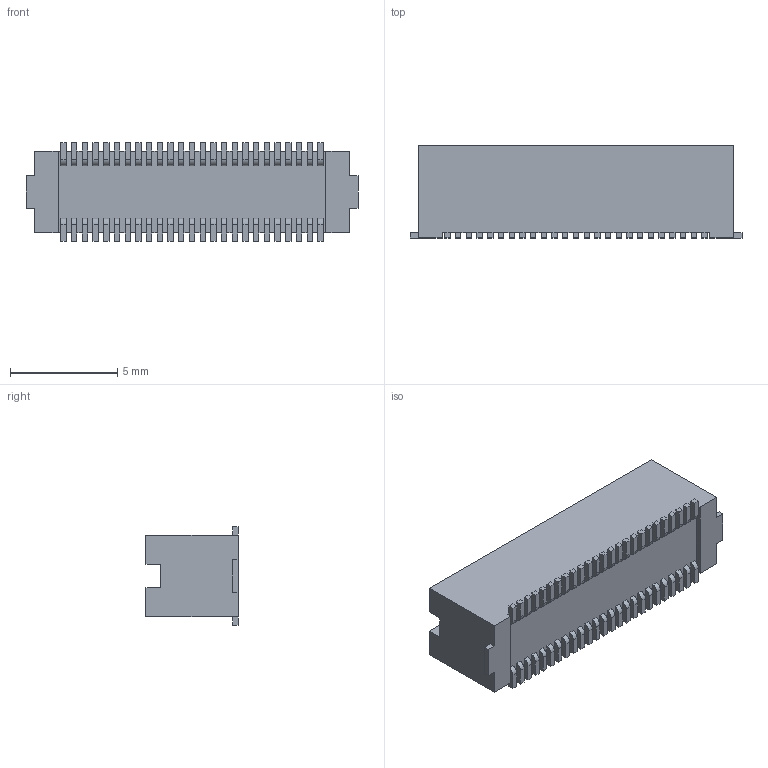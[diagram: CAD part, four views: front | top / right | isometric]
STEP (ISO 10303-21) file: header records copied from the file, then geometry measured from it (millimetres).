
FILE_DESCRIPTION (( 'STEP AP214' ), '1' );
FILE_NAME ('DF12B(5.0)-50DP.STEP', '2011-05-17T10:17:48', ( 'vpeshkov' ), ( 'licard' ), 'SwSTEP 2.0', 'SolidWorks 2009', '' );
FILE_SCHEMA (( 'AUTOMOTIVE_DESIGN' ));
Length unit declared in the file: millimetre
Products named in the file (1): DF12B(5.0)-50DP
Bounding box: 15.5 x 4.3 x 4.6 mm (x, y, z)
Volume: 164.1 mm3; surface area: 465.1 mm2
Topology: 1 solids, 1 shells, 780 faces, 2234 edges, 1456 vertices
Faces by surface type: plane 680, cylinder 100
Entity records: 31170 total; most frequent: CARTESIAN_POINT 4471, ORIENTED_EDGE 4468, DIRECTION 3996, EDGE_CURVE 2234, VECTOR 2034, LINE 2034, VERTEX_POINT 1456, AXIS2_PLACEMENT_3D 981
